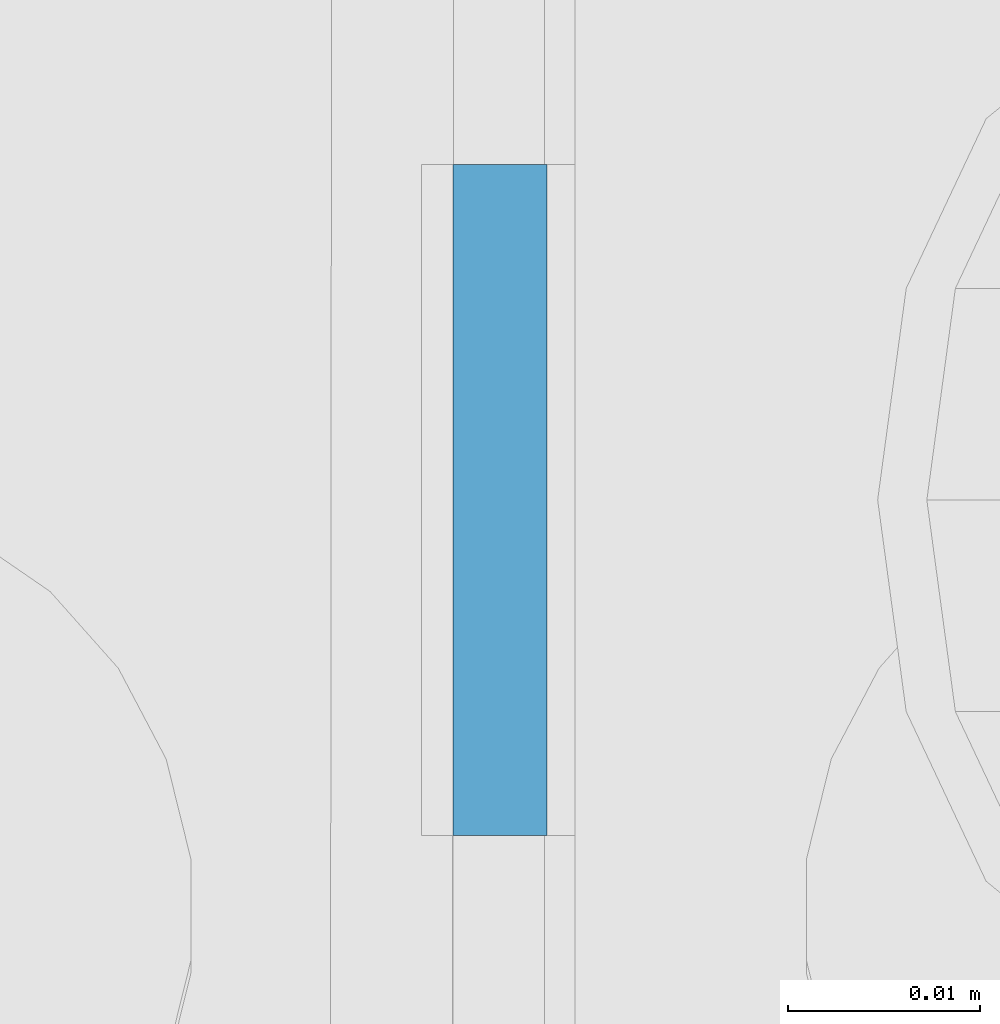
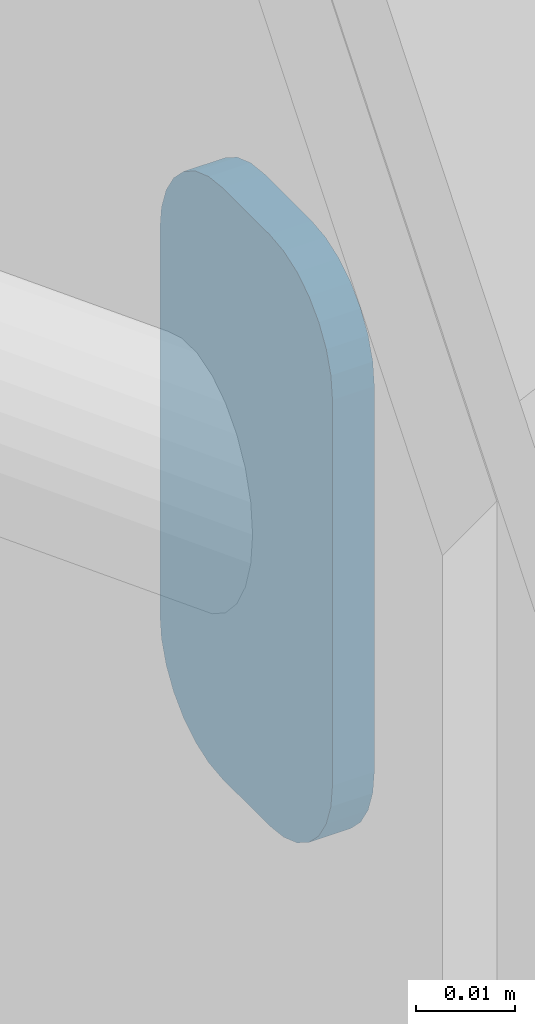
# One storey, part 155 of 185: 1 mechanical fastener, 1 element without a shape of its own.
"""IFC2X3 building model written with IfcOpenShell, lengths in millimetres."""

import ifcopenshell
import ifcopenshell.guid

model = None  # the IFC model being written
_history = None  # IfcOwnerHistory: only IFC2X3 demands one
_inside = {}  # id of a spatial element -> (the spatial element, [elements in it])
_under = {}  # id of a project, library or spatial element -> (it, [spatial elements below it])
_declared = {}  # id of a project -> (the project, [libraries it declares])
_typed = {}  # id of a type object -> (the type object, [elements of that type])
_made_of = {}  # id of a material, layer set ... -> (it, [elements and type objects made of it])


def new_model(schema):
    """Start an empty IFC model of exactly this schema.

    Asked for "IFC4X3", IfcOpenShell would pick the latest addendum, in which some entities
    have other attributes; the version numbers below select the first issue.
    IFC2X3 requires an IfcOwnerHistory on every rooted entity: one is made here for all.
    """
    global model, _history
    if schema == "IFC4X3":
        model = ifcopenshell.file(schema_version=(4, 3, 0, 0))
    else:
        model = ifcopenshell.file(schema=schema)
    _inside.clear()
    _under.clear()
    _declared.clear()
    _typed.clear()
    _made_of.clear()
    _history = None
    if model.schema == "IFC2X3":
        org = make("IfcOrganization", Name="unknown")
        user = make(
            "IfcPersonAndOrganization",
            ThePerson=make("IfcPerson", FamilyName="unknown"),
            TheOrganization=org,
        )
        app = make(
            "IfcApplication",
            ApplicationDeveloper=org,
            Version="unknown",
            ApplicationFullName="unknown",
            ApplicationIdentifier="unknown",
        )
        _history = make(
            "IfcOwnerHistory",
            OwningUser=user,
            OwningApplication=app,
            ChangeAction="ADDED",
            CreationDate=0,
        )
    return model


def make(cls, **values):
    """One entity of the class cls with the attributes given. An attribute that is None is left unset."""
    return model.create_entity(
        cls, **{name: value for name, value in values.items() if value is not None}
    )


def rooted(cls, **values):
    """An entity with a GlobalId (a new one), such as an element, a storey or a relation."""
    return make(cls, GlobalId=ifcopenshell.guid.new(), OwnerHistory=_history, **values)


def si_unit(unit_type, name, prefix=None):
    """IfcSIUnit, for example si_unit("LENGTHUNIT", "METRE", prefix="MILLI")."""
    return make("IfcSIUnit", UnitType=unit_type, Prefix=prefix, Name=name)


def assignment(units):
    """IfcUnitAssignment: the units of a project."""
    return None if units is None else make("IfcUnitAssignment", Units=units)


def point(xyz):
    """IfcCartesianPoint."""
    return None if xyz is None else make("IfcCartesianPoint", Coordinates=xyz)


def direction(xyz):
    """IfcDirection."""
    return None if xyz is None else make("IfcDirection", DirectionRatios=xyz)


def frame(location, z_axis=None, x_axis=None):
    """IfcAxis2Placement3D, a coordinate frame: its origin and axes. An axis left out is left unset."""
    return make(
        "IfcAxis2Placement3D",
        Location=point(location),
        Axis=direction(z_axis),
        RefDirection=direction(x_axis),
    )


def frame_2d(location, x_axis=None):
    """IfcAxis2Placement2D, a coordinate frame in the plane: its origin and x axis."""
    return make(
        "IfcAxis2Placement2D", Location=point(location), RefDirection=direction(x_axis)
    )


def origin_with_axes():
    """The frame at (0, 0, 0) with the z axis (0, 0, 1) and the x axis (1, 0, 0) written out."""
    return frame((0.0, 0.0, 0.0), z_axis=(0.0, 0.0, 1.0), x_axis=(1.0, 0.0, 0.0))


def place(relative_to, where):
    """IfcLocalPlacement: puts the frame where relative to a parent placement (None: the world)."""
    return make(
        "IfcLocalPlacement", PlacementRelTo=relative_to, RelativePlacement=where
    )


def context(
    kind, dimensions, precision=None, world=None, true_north=None, identifier=None
):
    """IfcGeometricRepresentationContext, for example the 3D "Model" context."""
    return make(
        "IfcGeometricRepresentationContext",
        ContextIdentifier=identifier,
        ContextType=kind,
        CoordinateSpaceDimension=dimensions,
        Precision=precision,
        WorldCoordinateSystem=world,
        TrueNorth=true_north,
    )


def subcontext(parent, identifier, kind, view, scale=None):
    """IfcGeometricRepresentationSubContext, for example "Body" below "Model"."""
    return make(
        "IfcGeometricRepresentationSubContext",
        ContextIdentifier=identifier,
        ContextType=kind,
        ParentContext=parent,
        TargetScale=scale,
        TargetView=view,
    )


def project(units=None, contexts=None):
    """IfcProject with its units and contexts."""
    return rooted(
        "IfcProject",
        Name="project",
        RepresentationContexts=contexts,
        UnitsInContext=assignment(units),
    )


def spatial(cls, under=None, at=None, **own):
    """A site, building, storey or space (cls), placed at a placement, below another one or the project."""
    s = rooted(cls, ObjectPlacement=at, **own)
    if under is not None:
        _under.setdefault(under.id(), (under, []))[1].append(s)
    return s


def polyline(points):
    """IfcPolyline through the points."""
    return make("IfcPolyline", Points=[point(p) for p in points])


def circle_curve(where, radius):
    """IfcCircle in the frame where."""
    return make("IfcCircle", Position=where, Radius=radius)


def parameter(value):
    """IfcParameterValue: where a trimmed curve begins or ends, as a parameter of its basis curve."""
    return model.create_entity("IfcParameterValue", value)


def trimmed(basis, trim1, trim2, sense, master):
    """IfcTrimmedCurve: the piece of a basis curve between two trims."""
    return make(
        "IfcTrimmedCurve",
        BasisCurve=basis,
        Trim1=trim1,
        Trim2=trim2,
        SenseAgreement=sense,
        MasterRepresentation=master,
    )


def segment(curve, same_sense, transition):
    """IfcCompositeCurveSegment."""
    return make(
        "IfcCompositeCurveSegment",
        Transition=transition,
        SameSense=same_sense,
        ParentCurve=curve,
    )


def composite_curve(segments, self_intersect=None):
    """IfcCompositeCurve: segments joined end to end."""
    return make("IfcCompositeCurve", Segments=segments, SelfIntersect=self_intersect)


def outline(outer, holes=None, kind="AREA"):
    """IfcArbitraryClosedProfileDef: a profile drawn as a closed curve; with holes, ...WithVoids."""
    if holes is None:
        return make("IfcArbitraryClosedProfileDef", ProfileType=kind, OuterCurve=outer)
    return make(
        "IfcArbitraryProfileDefWithVoids",
        ProfileType=kind,
        OuterCurve=outer,
        InnerCurves=holes,
    )


def extrude(swept, where, along, depth):
    """IfcExtrudedAreaSolid: the profile swept, set in the frame where, extruded along a direction by depth."""
    return make(
        "IfcExtrudedAreaSolid",
        SweptArea=swept,
        Position=where,
        ExtrudedDirection=direction(along),
        Depth=depth,
    )


def shape(context_of_items, identifier, shape_type, items):
    """IfcShapeRepresentation: the items that make up one representation, for example the "Body"."""
    return make(
        "IfcShapeRepresentation",
        ContextOfItems=context_of_items,
        RepresentationIdentifier=identifier,
        RepresentationType=shape_type,
        Items=items,
    )


def source(mapping_origin, context_of_items, identifier, shape_type, items):
    """IfcRepresentationMap: a shape defined once, which mapped items show again and again."""
    return make(
        "IfcRepresentationMap",
        MappingOrigin=mapping_origin,
        MappedRepresentation=shape(context_of_items, identifier, shape_type, items),
    )


def transform(
    local_origin,
    x_axis=None,
    y_axis=None,
    z_axis=None,
    scale=None,
    scale2=None,
    scale3=None,
    uniform=True,
):
    """IfcCartesianTransformationOperator3D, or its non-uniform kind. x_axis, y_axis, z_axis: its Axis1, 2, 3."""
    if uniform:
        return make(
            "IfcCartesianTransformationOperator3D",
            Axis1=direction(x_axis),
            Axis2=direction(y_axis),
            LocalOrigin=point(local_origin),
            Scale=scale,
            Axis3=direction(z_axis),
        )
    return make(
        "IfcCartesianTransformationOperator3DnonUniform",
        Axis1=direction(x_axis),
        Axis2=direction(y_axis),
        LocalOrigin=point(local_origin),
        Scale=scale,
        Axis3=direction(z_axis),
        Scale2=scale2,
        Scale3=scale3,
    )


def mapped(mapping_source, mapping_target):
    """IfcMappedItem: shows the shape of a source again, moved by a transform."""
    return make(
        "IfcMappedItem", MappingSource=mapping_source, MappingTarget=mapping_target
    )


def material(Name=None, Category=None):
    """IfcMaterial."""
    return make("IfcMaterial", Name=Name, Category=Category)


def made_of(thing, what):
    """Note that an element or type object is made of a material, layer set ...; save() writes the relation."""
    if what is not None:
        _made_of.setdefault(what.id(), (what, []))[1].append(thing)
    return thing


def type_object(cls, material=None, **own):
    """A type object (cls), such as IfcWallType, which elements share."""
    return made_of(rooted(cls, **own), material)


def element(
    cls,
    number,
    at=None,
    inside=None,
    cuts=None,
    type_object=None,
    material=None,
    context=None,
    identifier="Body",
    shape_type=None,
    held_by="IfcProductDefinitionShape",
    body=None,
    shapes=None,
    **own,
):
    """One element of the class cls, such as IfcWall. Its Tag is "e" and its number.

    at: its placement. inside: the storey or other place that contains it. cuts: it is an
    opening in that element (IfcRelVoidsElement). A single representation is given by context,
    identifier, shape_type and body (its items); several are given by shapes. held_by: the class
    of the entity that holds the representations. save() writes the other relations.
    """
    e = rooted(cls, Tag="e%d" % number, ObjectPlacement=at, **own)
    if body is not None:
        shapes = [shape(context, identifier, shape_type, body)]
    if shapes is not None:
        e.Representation = make(held_by, Representations=shapes)
    if inside is not None:
        _inside.setdefault(inside.id(), (inside, []))[1].append(e)
    if cuts is not None:
        rooted(
            "IfcRelVoidsElement", RelatingBuildingElement=cuts, RelatedOpeningElement=e
        )
    if type_object is not None:
        _typed.setdefault(type_object.id(), (type_object, []))[1].append(e)
    return made_of(e, material)


def aggregate(whole, parts):
    """IfcRelAggregates: a whole, such as a stair, and the parts it consists of."""
    return rooted("IfcRelAggregates", RelatingObject=whole, RelatedObjects=parts)


def save(model, path):
    """Write the relations noted so far, then the file.

    IfcRelAggregates (storeys below a building ...), IfcRelContainedInSpatialStructure (elements
    in a storey), IfcRelDefinesByType, IfcRelAssociatesMaterial and IfcRelDeclares: one each for
    every whole, place, type object, material and project.
    """
    for whole, parts in _under.values():
        aggregate(whole, parts)
    for where, things in _inside.values():
        rooted(
            "IfcRelContainedInSpatialStructure",
            RelatedElements=things,
            RelatingStructure=where,
        )
    for kind, things in _typed.values():
        rooted("IfcRelDefinesByType", RelatedObjects=things, RelatingType=kind)
    for what, things in _made_of.values():
        rooted("IfcRelAssociatesMaterial", RelatedObjects=things, RelatingMaterial=what)
    for by, libraries in _declared.values():
        rooted("IfcRelDeclares", RelatingContext=by, RelatedDefinitions=libraries)
    model.write(path)


model = new_model("IFC2X3")

# Units and contexts
model_context = context("Model", 3, precision=1e-05, world=origin_with_axes())
body_context = subcontext(model_context, "Body", "Model", "MODEL_VIEW")
ifc_project = project(units=[si_unit("LENGTHUNIT", "METRE", prefix="MILLI"), si_unit("AREAUNIT", "SQUARE_METRE"), si_unit("VOLUMEUNIT", "CUBIC_METRE"), si_unit("MASSUNIT", "GRAM", prefix="KILO"), si_unit("TIMEUNIT", "SECOND"), si_unit("PLANEANGLEUNIT", "RADIAN"), si_unit("SOLIDANGLEUNIT", "STERADIAN"), si_unit("THERMODYNAMICTEMPERATUREUNIT", "DEGREE_CELSIUS"), si_unit("LUMINOUSINTENSITYUNIT", "LUMEN")], contexts=[model_context])

# Site, building, storey
site_placement = place(None, origin_with_axes())
site = spatial("IfcSite", under=ifc_project, at=site_placement, Name="Undefined", CompositionType="ELEMENT")
building_placement = place(site_placement, origin_with_axes())
building = spatial("IfcBuilding", under=site, at=building_placement, Name="Undefined", CompositionType="ELEMENT")
storey_placement = place(building_placement, origin_with_axes())
storey = spatial("IfcBuildingStorey", under=building, at=storey_placement, Name="Undefined", CompositionType="ELEMENT", Elevation=0.0)

# Assembly, mechanical fastener
assembly_placement = place(storey_placement, origin_with_axes())
assembly = element("IfcElementAssembly", 1, at=assembly_placement, inside=storey, Name="Steel Assembly", AssemblyPlace="NOTDEFINED", PredefinedType="RIGID_FRAME")
ifc_material = material(Name="Undefined")
discrete_accessory_type = type_object("IfcDiscreteAccessoryType", Name="Bolt assembly")
shared_shape = source(origin_with_axes(), body_context, "Body", "SweptSolid", [
    extrude(outline(composite_curve([segment(polyline([(-23.8125, 17.4624996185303), (23.8125, 17.4624996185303)]), True, "CONTINUOUS"), segment(trimmed(circle_curve(frame_2d((23.8125, 4.76249980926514), x_axis=(0.0, 1.0)), 12.7), [parameter(0.0)], [parameter(4.71238898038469)], False, "PARAMETER"), True, "CONTINUOUS"), segment(polyline([(36.5124998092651, 4.76249980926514), (36.5124998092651, -4.76249980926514)]), True, "CONTINUOUS"), segment(trimmed(circle_curve(frame_2d((23.8125, -4.76249980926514), x_axis=(1.0, 0.0)), 12.7), [parameter(0.0)], [parameter(4.71238898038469)], False, "PARAMETER"), True, "CONTINUOUS"), segment(polyline([(23.8125, -17.4624996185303), (-23.8125, -17.4624996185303)]), True, "CONTINUOUS"), segment(trimmed(circle_curve(frame_2d((-23.8125, -4.76249980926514), x_axis=(0.0, -1.0)), 12.7), [parameter(0.0)], [parameter(4.71238898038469)], False, "PARAMETER"), True, "CONTINUOUS"), segment(polyline([(-36.5124998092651, -4.76249980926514), (-36.5124998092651, 4.76249980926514)]), True, "CONTINUOUS"), segment(trimmed(circle_curve(frame_2d((-23.8125, 4.76249980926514), x_axis=(-1.0, 0.0)), 12.7), [parameter(0.0)], [parameter(4.71238898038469)], False, "PARAMETER"), True, "DISCONTINUOUS")], self_intersect=False)), frame((0.0, -2.38125000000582, 0.0), z_axis=(0.0, 1.0, 0.0), x_axis=(1.0, 0.0, 0.0)), (0.0, 0.0, 1.0), 4.9),
])
mechanical_fastener_placement = place(assembly_placement, frame((14859.0, 31742.1260000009, 168.420316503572), z_axis=(0.0, 1.0, 0.0), x_axis=(0.0, 0.0, 1.0)))
mechanical_fastener = element("IfcMechanicalFastener", 2, at=mechanical_fastener_placement, type_object=discrete_accessory_type, material=ifc_material, Name="Bolt assembly", NominalDiameter=25.3999996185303, NominalLength=31.75, context=body_context, shape_type="MappedRepresentation", body=[
    mapped(shared_shape, transform((0.0, 0.0, 0.0))),
])
aggregate(assembly, [mechanical_fastener])

save(model, "model.ifc")
